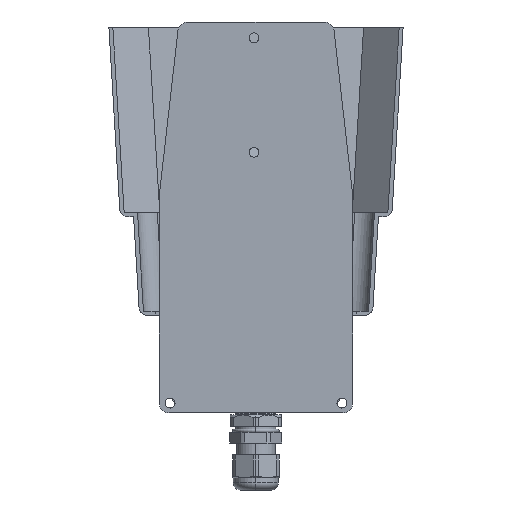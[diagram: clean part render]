
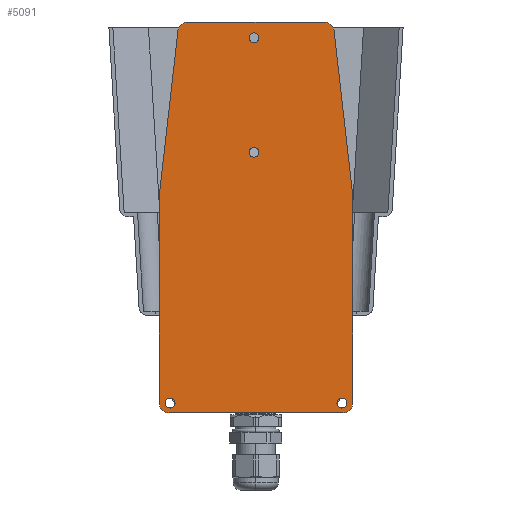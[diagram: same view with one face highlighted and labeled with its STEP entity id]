
A CAD part, front view. The second image highlights one B-rep face of the part: STEP entity #5091.
In plain terms, the highlighted planar face has unit normal (0, -1, 0) as drawn and (0, 0, -1) by its records, which use the part's own axes.
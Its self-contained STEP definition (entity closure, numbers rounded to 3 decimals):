
#4669 = VERTEX_POINT('',#4670);
#4670 = CARTESIAN_POINT('',(5.,0.,0.));
#4762 = VERTEX_POINT('',#4763);
#4763 = CARTESIAN_POINT('',(93.,0.,0.));
#4769 = EDGE_CURVE('',#4669,#4762,#4770,.T.);
#4770 = LINE('',#4771,#4772);
#4771 = CARTESIAN_POINT('',(0.,0.,0.));
#4772 = VECTOR('',#4773,1.);
#4773 = DIRECTION('',(1.,0.,0.));
#5036 = EDGE_CURVE('',#4669,#5037,#5039,.T.);
#5037 = VERTEX_POINT('',#5038);
#5038 = CARTESIAN_POINT('',(0.,-5.,0.));
#5039 = CIRCLE('',#5040,5.);
#5040 = AXIS2_PLACEMENT_3D('',#5041,#5042,#5043);
#5041 = CARTESIAN_POINT('',(5.,-5.,0.));
#5042 = DIRECTION('',(-0.,0.,1.));
#5043 = DIRECTION('',(0.,-1.,0.));
#5091 = ADVANCED_FACE('',(#5092,#5161,#5172,#5183,#5194),#5205,.T.);
#5092 = FACE_BOUND('',#5093,.T.);
#5093 = EDGE_LOOP('',(#5094,#5104,#5110,#5111,#5112,#5121,#5129,#5137,
    #5146,#5154));
#5094 = ORIENTED_EDGE('',*,*,#5095,.F.);
#5095 = EDGE_CURVE('',#5096,#5098,#5100,.T.);
#5096 = VERTEX_POINT('',#5097);
#5097 = CARTESIAN_POINT('',(0.,-110.,0.));
#5098 = VERTEX_POINT('',#5099);
#5099 = CARTESIAN_POINT('',(9.496,-193.565,0.));
#5100 = LINE('',#5101,#5102);
#5101 = CARTESIAN_POINT('',(0.,-110.,0.));
#5102 = VECTOR('',#5103,1.);
#5103 = DIRECTION('',(0.113,-0.994,0.));
#5104 = ORIENTED_EDGE('',*,*,#5105,.F.);
#5105 = EDGE_CURVE('',#5037,#5096,#5106,.T.);
#5106 = LINE('',#5107,#5108);
#5107 = CARTESIAN_POINT('',(0.,0.,0.));
#5108 = VECTOR('',#5109,1.);
#5109 = DIRECTION('',(0.,-1.,0.));
#5110 = ORIENTED_EDGE('',*,*,#5036,.F.);
#5111 = ORIENTED_EDGE('',*,*,#4769,.T.);
#5112 = ORIENTED_EDGE('',*,*,#5113,.T.);
#5113 = EDGE_CURVE('',#4762,#5114,#5116,.T.);
#5114 = VERTEX_POINT('',#5115);
#5115 = CARTESIAN_POINT('',(98.,-5.,0.));
#5116 = CIRCLE('',#5117,5.);
#5117 = AXIS2_PLACEMENT_3D('',#5118,#5119,#5120);
#5118 = CARTESIAN_POINT('',(93.,-5.,0.));
#5119 = DIRECTION('',(-0.,-0.,-1.));
#5120 = DIRECTION('',(0.,-1.,0.));
#5121 = ORIENTED_EDGE('',*,*,#5122,.T.);
#5122 = EDGE_CURVE('',#5114,#5123,#5125,.T.);
#5123 = VERTEX_POINT('',#5124);
#5124 = CARTESIAN_POINT('',(98.,-110.,0.));
#5125 = LINE('',#5126,#5127);
#5126 = CARTESIAN_POINT('',(98.,0.,0.));
#5127 = VECTOR('',#5128,1.);
#5128 = DIRECTION('',(0.,-1.,0.));
#5129 = ORIENTED_EDGE('',*,*,#5130,.F.);
#5130 = EDGE_CURVE('',#5131,#5123,#5133,.T.);
#5131 = VERTEX_POINT('',#5132);
#5132 = CARTESIAN_POINT('',(88.504,-193.565,0.));
#5133 = LINE('',#5134,#5135);
#5134 = CARTESIAN_POINT('',(88.,-198.,0.));
#5135 = VECTOR('',#5136,1.);
#5136 = DIRECTION('',(0.113,0.994,0.));
#5137 = ORIENTED_EDGE('',*,*,#5138,.F.);
#5138 = EDGE_CURVE('',#5139,#5131,#5141,.T.);
#5139 = VERTEX_POINT('',#5140);
#5140 = CARTESIAN_POINT('',(83.536,-198.,0.));
#5141 = CIRCLE('',#5142,5.);
#5142 = AXIS2_PLACEMENT_3D('',#5143,#5144,#5145);
#5143 = CARTESIAN_POINT('',(83.536,-193.,0.));
#5144 = DIRECTION('',(-0.,0.,1.));
#5145 = DIRECTION('',(0.,-1.,0.));
#5146 = ORIENTED_EDGE('',*,*,#5147,.F.);
#5147 = EDGE_CURVE('',#5148,#5139,#5150,.T.);
#5148 = VERTEX_POINT('',#5149);
#5149 = CARTESIAN_POINT('',(14.464,-198.,0.));
#5150 = LINE('',#5151,#5152);
#5151 = CARTESIAN_POINT('',(10.,-198.,0.));
#5152 = VECTOR('',#5153,1.);
#5153 = DIRECTION('',(1.,0.,0.));
#5154 = ORIENTED_EDGE('',*,*,#5155,.F.);
#5155 = EDGE_CURVE('',#5098,#5148,#5156,.T.);
#5156 = CIRCLE('',#5157,5.);
#5157 = AXIS2_PLACEMENT_3D('',#5158,#5159,#5160);
#5158 = CARTESIAN_POINT('',(14.464,-193.,0.));
#5159 = DIRECTION('',(-0.,0.,1.));
#5160 = DIRECTION('',(0.,-1.,0.));
#5161 = FACE_BOUND('',#5162,.T.);
#5162 = EDGE_LOOP('',(#5163));
#5163 = ORIENTED_EDGE('',*,*,#5164,.T.);
#5164 = EDGE_CURVE('',#5165,#5165,#5167,.T.);
#5165 = VERTEX_POINT('',#5166);
#5166 = CARTESIAN_POINT('',(50.5,-190.,0.));
#5167 = CIRCLE('',#5168,2.5);
#5168 = AXIS2_PLACEMENT_3D('',#5169,#5170,#5171);
#5169 = CARTESIAN_POINT('',(48.,-190.,0.));
#5170 = DIRECTION('',(0.,0.,1.));
#5171 = DIRECTION('',(1.,0.,0.));
#5172 = FACE_BOUND('',#5173,.T.);
#5173 = EDGE_LOOP('',(#5174));
#5174 = ORIENTED_EDGE('',*,*,#5175,.T.);
#5175 = EDGE_CURVE('',#5176,#5176,#5178,.T.);
#5176 = VERTEX_POINT('',#5177);
#5177 = CARTESIAN_POINT('',(50.5,-132.,0.));
#5178 = CIRCLE('',#5179,2.5);
#5179 = AXIS2_PLACEMENT_3D('',#5180,#5181,#5182);
#5180 = CARTESIAN_POINT('',(48.,-132.,0.));
#5181 = DIRECTION('',(0.,0.,1.));
#5182 = DIRECTION('',(1.,0.,0.));
#5183 = FACE_BOUND('',#5184,.T.);
#5184 = EDGE_LOOP('',(#5185));
#5185 = ORIENTED_EDGE('',*,*,#5186,.T.);
#5186 = EDGE_CURVE('',#5187,#5187,#5189,.T.);
#5187 = VERTEX_POINT('',#5188);
#5188 = CARTESIAN_POINT('',(95.,-5.,0.));
#5189 = CIRCLE('',#5190,2.5);
#5190 = AXIS2_PLACEMENT_3D('',#5191,#5192,#5193);
#5191 = CARTESIAN_POINT('',(92.5,-5.,0.));
#5192 = DIRECTION('',(0.,0.,1.));
#5193 = DIRECTION('',(1.,0.,0.));
#5194 = FACE_BOUND('',#5195,.T.);
#5195 = EDGE_LOOP('',(#5196));
#5196 = ORIENTED_EDGE('',*,*,#5197,.T.);
#5197 = EDGE_CURVE('',#5198,#5198,#5200,.T.);
#5198 = VERTEX_POINT('',#5199);
#5199 = CARTESIAN_POINT('',(8.,-5.,0.));
#5200 = CIRCLE('',#5201,2.5);
#5201 = AXIS2_PLACEMENT_3D('',#5202,#5203,#5204);
#5202 = CARTESIAN_POINT('',(5.5,-5.,0.));
#5203 = DIRECTION('',(0.,0.,1.));
#5204 = DIRECTION('',(1.,0.,0.));
#5205 = PLANE('',#5206);
#5206 = AXIS2_PLACEMENT_3D('',#5207,#5208,#5209);
#5207 = CARTESIAN_POINT('',(49.,-95.654,0.));
#5208 = DIRECTION('',(-0.,-0.,-1.));
#5209 = DIRECTION('',(-1.,0.,0.));
